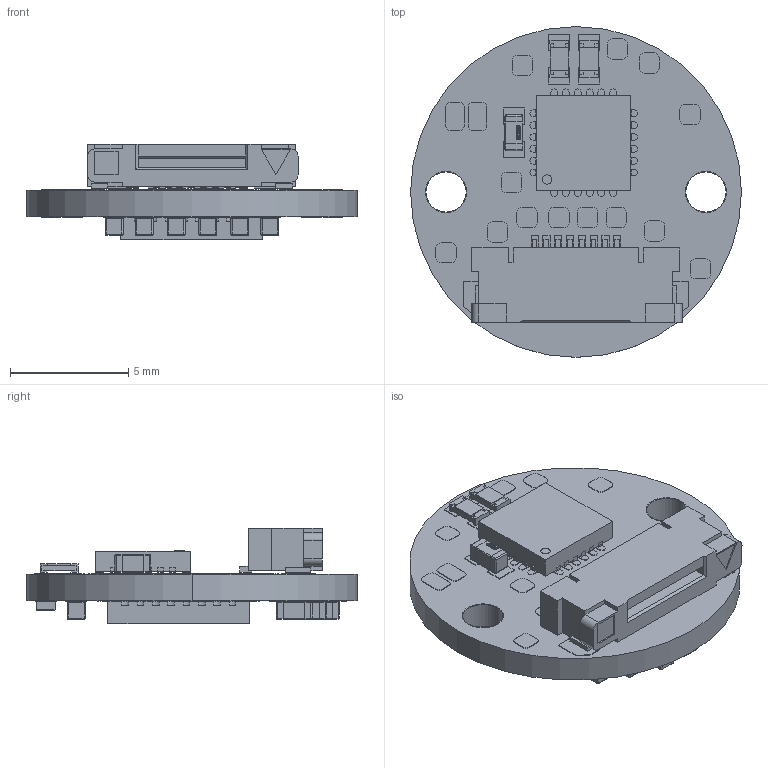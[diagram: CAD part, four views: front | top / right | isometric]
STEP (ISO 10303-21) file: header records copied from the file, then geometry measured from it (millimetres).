
FILE_DESCRIPTION (( 'STEP AP214' ), '1' );
FILE_NAME ('MODM373.STEP', '2019-12-13T12:12:30', ( '' ), ( '' ), 'SwSTEP 2.0', 'SolidWorks 2016', '' );
FILE_SCHEMA (( 'AUTOMOTIVE_DESIGN' ));
Length unit declared in the file: millimetre
Products named in the file (1): MODM373
Bounding box: 14 x 14 x 4.04 mm (x, y, z)
Volume: 270.6 mm3; surface area: 881.7 mm2
Topology: 160 solids, 160 shells, 3065 faces, 7872 edges, 5130 vertices
Faces by surface type: plane 2335, bspline 480, cylinder 250
Entity records: 148362 total; most frequent: CARTESIAN_POINT 41956, ORIENTED_EDGE 15616, DIRECTION 12392, EDGE_CURVE 7808, LINE 6476, VECTOR 6476, VERTEX_POINT 5130, UNCERTAINTY_MEASURE_WITH_UNIT 3227
